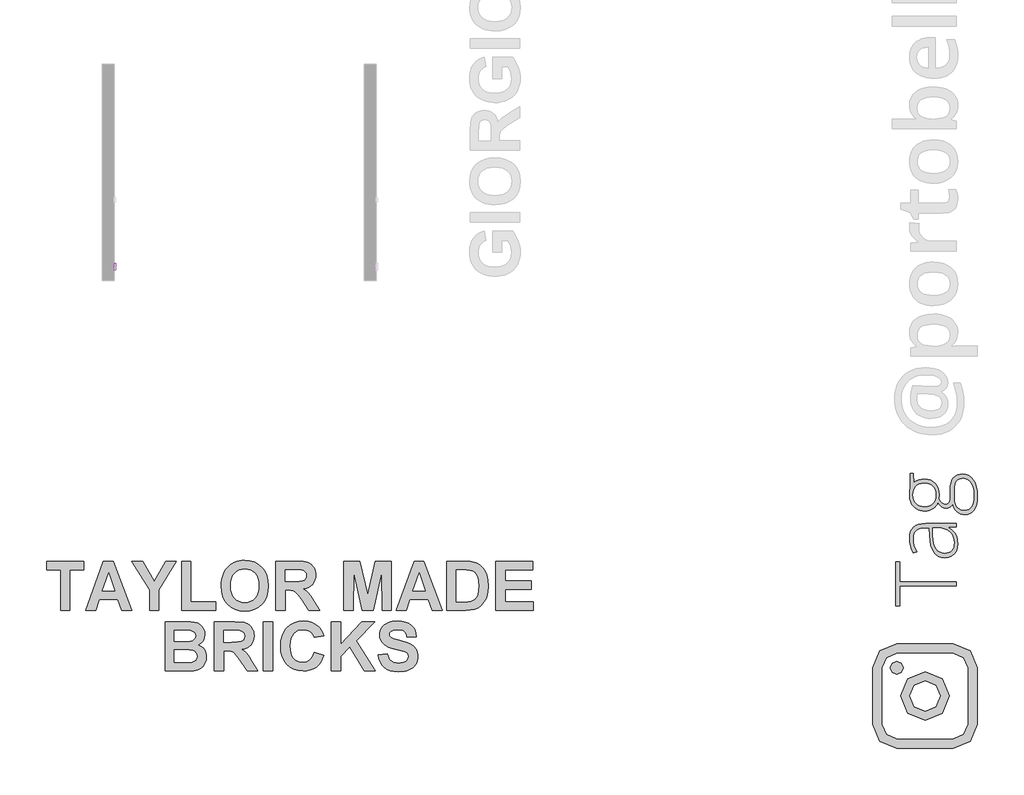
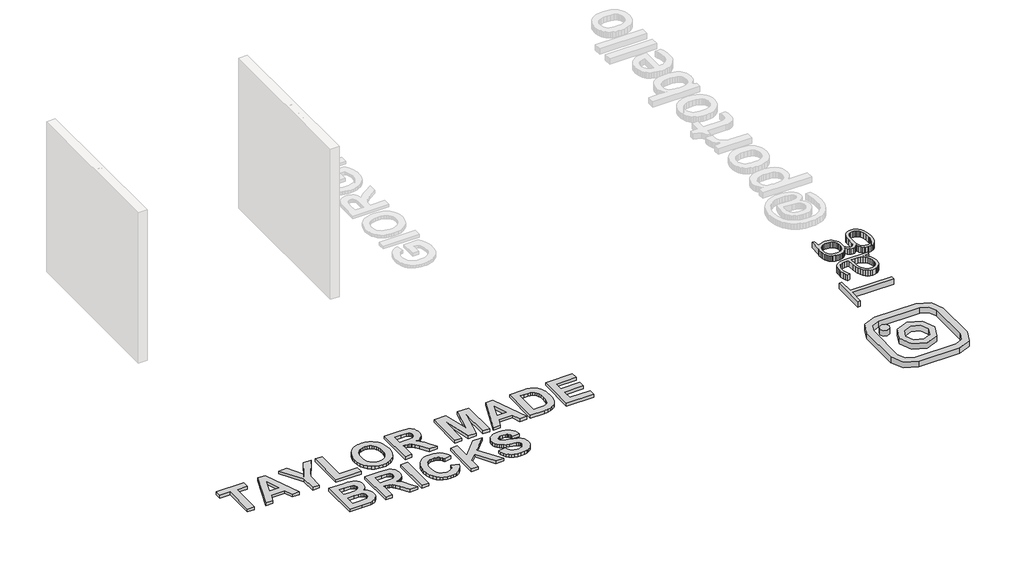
# One storey, part 2 of 6: 4 proxies.
"""IFC4 building model written with IfcOpenShell, lengths in millimetres."""

from ifc_helpers import new_model, si_unit, frame, origin, origin_with_axes, place, context, project, spatial, polyline, outline, extrude, transform, mapped, element, save
from components import generic_models_d67f6705

model = new_model("IFC4")

# Units and contexts
model_context = context("Model", 3, world=origin())
ifc_project = project(units=[si_unit("LENGTHUNIT", "METRE", prefix="MILLI")], contexts=[model_context])

# Site, building, storey
site = spatial("IfcSite", under=ifc_project)
building = spatial("IfcBuilding", under=site)
storey = spatial("IfcBuildingStorey", under=building, Name="PORTOBELLO - SHOWROOM", Elevation=0.0)

# Proxies
placement = place(None, origin())
generic_models_shape = generic_models_d67f6705(model_context)
element("IfcBuildingElementProxy", 1, Name="Blks_Instagram1 : Único 2", ObjectType="Blks_Instagram1 : Único 2", at=placement, inside=storey, context=model_context, shape_type="MappedRepresentation", body=[
    mapped(generic_models_shape, transform((-3106.922966, -13501.2406298, 0.0), x_axis=(-1.0, 0.0, 0.0), y_axis=(0.0, -1.0, 0.0), z_axis=(0.0, 0.0, 1.0))),
])
element("IfcBuildingElementProxy", 2, Name="10mm Arial", ObjectType="10mm Arial", at=placement, inside=storey, context=model_context, shape_type="SweptSolid", body=[
    extrude(outline(polyline([(-8147.5640107, 2596.6485127), (-8147.5640107, 2609.2055514), (-8106.7536347, 2609.2055514), (-8106.7536347, 2571.6570625), (-8126.9013053, 2559.8112622), (-8148.2016728, 2555.8381367), (-8162.2884876, 2557.4169636), (-8175.0202703, 2562.1534443), (-8185.5968776, 2569.8820318), (-8193.2181663, 2580.4371794), (-8197.8258883, 2593.0984514), (-8199.3617956, 2607.1454123), (-8197.8320197, 2621.2935407), (-8193.2426918, 2634.454519), (-8185.7838843, 2645.4940446), (-8175.6456697, 2653.2778145), (-8163.2970974, 2657.8947335), (-8149.2072169, 2659.4337065), (-8129.5623184, 2655.8652512), (-8115.791269, 2645.9324373), (-8108.2006372, 2629.3164338), (-8119.7766573, 2626.0545468), (-8125.5033537, 2637.6673551), (-8135.2890148, 2644.3628074), (-8149.4034207, 2646.8766677), (-8165.4798639, 2644.1666037), (-8176.4182218, 2637.0542185), (-8182.8806822, 2627.378922), (-8186.8047568, 2607.6604471), (-8182.0836046, 2585.7714684), (-8168.3493434, 2572.6748693), (-8149.2072169, 2568.3951754), (-8132.0271278, 2571.6202743), (-8119.3106735, 2578.4996676), (-8119.3106735, 2596.6485127), (-8147.5640107, 2596.6485127)])), frame((-13204.6123775, 0.0, 0.0), z_axis=(1.0, 0.0, 0.0), x_axis=(0.0, 1.0, 0.0)), (0.0, 0.0, 1.0), 20.0),
    extrude(outline(polyline([(-13184.6123775, -8075.3610378), (-13184.6123775, -8087.9180765), (-13204.6123775, -8087.9180765), (-13204.6123775, -8075.3610378), (-13184.6123775, -8075.3610378)])), frame((0.0, 0.0, 2645.3070379), z_axis=(0.0, 0.0, 1.0), x_axis=(1.0, 0.0, 0.0)), (0.0, 0.0, 1.0), 12.5570388),
    extrude(outline(polyline([(-13184.6123775, -8075.3610378), (-13184.6123775, -8087.9180765), (-13204.6123775, -8087.9180765), (-13204.6123775, -8075.3610378), (-13184.6123775, -8075.3610378)])), frame((0.0, 0.0, 2557.4077665), z_axis=(0.0, 0.0, 1.0), x_axis=(1.0, 0.0, 0.0)), (0.0, 0.0, 1.0), 73.7726028),
    extrude(outline(polyline([(-8059.6647393, 2594.2940679), (-8056.9485439, 2612.0811624), (-8048.7999577, 2624.5830188), (-8038.7322538, 2630.7082541), (-8026.6779871, 2632.7499991), (-8013.4863519, 2630.26373), (-8002.9495984, 2622.8049225), (-7996.0426139, 2610.962188), (-7993.7402858, 2595.3241375), (-7997.8115132, 2572.9814377), (-8009.6695762, 2560.3385598), (-8026.6779871, 2555.8381367), (-8040.0290378, 2558.3152088), (-8050.5535286, 2565.7464251), (-8057.3869366, 2577.83748), (-8059.6647393, 2594.2940679)]), holes=[polyline([(-8047.1077005, 2594.3185934), (-8045.6545667, 2582.9541054), (-8041.295165, 2574.8576358), (-8034.7346028, 2570.0107905), (-8026.6779871, 2568.3951754), (-8018.6581596, 2570.0199876), (-8012.1098601, 2574.894424), (-8007.7504584, 2583.0981925), (-8006.2973245, 2594.7110008), (-8007.7596555, 2605.744395), (-8012.1466483, 2613.7305), (-8018.7041448, 2618.5773453), (-8026.6779871, 2620.1929604), (-8034.7346028, 2618.5834766), (-8041.295165, 2613.7550255), (-8045.6545667, 2605.67695), (-8047.1077005, 2594.3185934)])]), frame((-13204.6123775, 0.0, 0.0), z_axis=(1.0, 0.0, 0.0), x_axis=(0.0, 1.0, 0.0)), (0.0, 0.0, 1.0), 20.0),
    extrude(outline(polyline([(-7979.6136172, 2557.4077665), (-7979.6136172, 2631.1803693), (-7968.6262082, 2631.1803693), (-7968.6262082, 2620.2665368), (-7960.8271099, 2630.321978), (-7952.9789607, 2632.7499991), (-7940.372871, 2628.8749755), (-7944.5667258, 2617.6177864), (-7953.3958936, 2620.1929604), (-7960.4960161, 2617.7158883), (-7965.0209647, 2610.8487577), (-7967.0565784, 2596.1825288), (-7967.0565784, 2557.4077665), (-7979.6136172, 2557.4077665)])), frame((-13204.6123775, 0.0, 0.0), z_axis=(1.0, 0.0, 0.0), x_axis=(0.0, 1.0, 0.0)), (0.0, 0.0, 1.0), 20.0),
    extrude(outline(polyline([(-7935.6639815, 2551.1292471), (-7923.1069427, 2549.5596173), (-7919.0357153, 2542.9377414), (-7906.8465585, 2540.1418382), (-7893.9952142, 2543.3056234), (-7887.8638476, 2552.1838422), (-7887.0054562, 2566.8255456), (-7895.8468869, 2559.7622113), (-7906.6258293, 2557.4077665), (-7919.5722099, 2560.1484874), (-7929.2260466, 2568.37065), (-7935.2317201, 2580.4249167), (-7937.2336113, 2594.6619499), (-7933.6406305, 2614.1229074), (-7923.2418328, 2627.8939568), (-7907.238966, 2632.7499991), (-7896.0369592, 2630.0031469), (-7887.0054562, 2621.7625902), (-7887.0054562, 2631.1803693), (-7874.4484175, 2631.1803693), (-7874.4484175, 2567.4877332), (-7877.8819828, 2543.0971569), (-7888.7590271, 2531.7541287), (-7907.0918132, 2527.5847994), (-7918.7751322, 2529.0532617), (-7927.9752478, 2533.4586486), (-7933.8766881, 2540.8132229), (-7935.6639815, 2551.1292471)]), holes=[polyline([(-7924.6765726, 2595.5203412), (-7923.336869, 2584.0025691), (-7919.3177582, 2576.0839091), (-7913.2752964, 2571.4945813), (-7905.8655399, 2569.9648053), (-7898.5109656, 2571.4853842), (-7892.437847, 2576.0471209), (-7888.3635539, 2583.8646133), (-7887.0054562, 2595.1524592), (-7888.4034078, 2606.0387006), (-7892.5972626, 2613.8776528), (-7898.759286, 2618.6141335), (-7906.0617436, 2620.1929604), (-7913.2323768, 2618.6386589), (-7919.2441818, 2613.9757546), (-7923.3184749, 2606.2532984), (-7924.6765726, 2595.5203412)])]), frame((-13204.6123775, 0.0, 0.0), z_axis=(1.0, 0.0, 0.0), x_axis=(0.0, 1.0, 0.0)), (0.0, 0.0, 1.0), 20.0),
    extrude(outline(polyline([(-13184.6123775, -7843.0558206), (-13184.6123775, -7855.6128593), (-13204.6123775, -7855.6128593), (-13204.6123775, -7843.0558206), (-13184.6123775, -7843.0558206)])), frame((0.0, 0.0, 2645.3070379), z_axis=(0.0, 0.0, 1.0), x_axis=(1.0, 0.0, 0.0)), (0.0, 0.0, 1.0), 12.5570388),
    extrude(outline(polyline([(-13184.6123775, -7843.0558206), (-13184.6123775, -7855.6128593), (-13204.6123775, -7855.6128593), (-13204.6123775, -7843.0558206), (-13184.6123775, -7843.0558206)])), frame((0.0, 0.0, 2557.4077665), z_axis=(0.0, 0.0, 1.0), x_axis=(1.0, 0.0, 0.0)), (0.0, 0.0, 1.0), 73.7726028),
    extrude(outline(polyline([(-7827.3595221, 2594.2940679), (-7824.6433267, 2612.0811624), (-7816.4947405, 2624.5830188), (-7806.4270366, 2630.7082541), (-7794.3727699, 2632.7499991), (-7781.1811346, 2630.26373), (-7770.6443812, 2622.8049225), (-7763.7373967, 2610.962188), (-7761.4350686, 2595.3241375), (-7765.506296, 2572.9814377), (-7777.3643589, 2560.3385598), (-7794.3727699, 2555.8381367), (-7807.7238206, 2558.3152088), (-7818.2483113, 2565.7464251), (-7825.0817194, 2577.83748), (-7827.3595221, 2594.2940679)]), holes=[polyline([(-7814.8024833, 2594.3185934), (-7813.3493494, 2582.9541054), (-7808.9899478, 2574.8576358), (-7802.4293856, 2570.0107905), (-7794.3727699, 2568.3951754), (-7786.3529424, 2570.0199876), (-7779.8046428, 2574.894424), (-7775.4452412, 2583.0981925), (-7773.9921073, 2594.7110008), (-7775.4544383, 2605.744395), (-7779.841431, 2613.7305), (-7786.3989276, 2618.5773453), (-7794.3727699, 2620.1929604), (-7802.4293856, 2618.5834766), (-7808.9899478, 2613.7550255), (-7813.3493494, 2605.67695), (-7814.8024833, 2594.3185934)])]), frame((-13204.6123775, 0.0, 0.0), z_axis=(1.0, 0.0, 0.0), x_axis=(0.0, 1.0, 0.0)), (0.0, 0.0, 1.0), 20.0),
    extrude(outline(polyline([(-7706.4980239, 2557.4077665), (-7706.4980239, 2657.8640767), (-7668.16472, 2657.8640767), (-7649.3904756, 2654.908758), (-7638.3049648, 2645.8220727), (-7634.295051, 2632.9707283), (-7637.6673026, 2621.2352927), (-7647.8576339, 2612.3448111), (-7635.4845361, 2602.976083), (-7631.1557913, 2587.3533609), (-7634.11111, 2573.8520917), (-7641.4319617, 2564.2381089), (-7652.358057, 2559.1368119), (-7668.4590256, 2557.4077665), (-7706.4980239, 2557.4077665)]), holes=[polyline([(-7693.9409852, 2617.0537007), (-7671.0096741, 2617.0537007), (-7657.6187695, 2618.1328212), (-7649.5621538, 2622.7803971), (-7646.8520898, 2630.9596401), (-7649.3782128, 2639.1511459), (-7656.6132254, 2643.9949255), (-7672.7509823, 2645.3070379), (-7693.9409852, 2645.3070379), (-7693.9409852, 2617.0537007)]), polyline([(-7693.9409852, 2569.9648053), (-7668.1892455, 2569.9648053), (-7658.8695683, 2570.4553146), (-7650.9846309, 2573.1899041), (-7645.7607065, 2578.7694477), (-7643.7128301, 2587.2307336), (-7646.1163258, 2596.9918692), (-7653.9031614, 2602.8166675), (-7669.4155188, 2604.4966619), (-7693.9409852, 2604.4966619), (-7693.9409852, 2569.9648053)])]), frame((-13204.6123775, 0.0, 0.0), z_axis=(1.0, 0.0, 0.0), x_axis=(0.0, 1.0, 0.0)), (0.0, 0.0, 1.0), 20.0),
    extrude(outline(polyline([(-7615.4594929, 2557.4077665), (-7615.4594929, 2631.1803693), (-7604.4720839, 2631.1803693), (-7604.4720839, 2620.2665368), (-7596.6729857, 2630.321978), (-7588.8248364, 2632.7499991), (-7576.2187467, 2628.8749755), (-7580.4126015, 2617.6177864), (-7589.2417693, 2620.1929604), (-7596.3418919, 2617.7158883), (-7600.8668404, 2610.8487577), (-7602.9024541, 2596.1825288), (-7602.9024541, 2557.4077665), (-7615.4594929, 2557.4077665)])), frame((-13204.6123775, 0.0, 0.0), z_axis=(1.0, 0.0, 0.0), x_axis=(0.0, 1.0, 0.0)), (0.0, 0.0, 1.0), 20.0),
    extrude(outline(polyline([(-13184.6123775, -7555.8135587), (-13184.6123775, -7568.3705975), (-13204.6123775, -7568.3705975), (-13204.6123775, -7555.8135587), (-13184.6123775, -7555.8135587)])), frame((0.0, 0.0, 2645.3070379), z_axis=(0.0, 0.0, 1.0), x_axis=(1.0, 0.0, 0.0)), (0.0, 0.0, 1.0), 12.5570388),
    extrude(outline(polyline([(-13184.6123775, -7555.8135587), (-13184.6123775, -7568.3705975), (-13204.6123775, -7568.3705975), (-13204.6123775, -7555.8135587), (-13184.6123775, -7555.8135587)])), frame((0.0, 0.0, 2557.4077665), z_axis=(0.0, 0.0, 1.0), x_axis=(1.0, 0.0, 0.0)), (0.0, 0.0, 1.0), 73.7726028),
    extrude(outline(polyline([(-7489.8891052, 2584.0914739), (-7477.3320664, 2582.5218441), (-7480.8330767, 2571.3535598), (-7487.4120331, 2562.9137337), (-7496.4496674, 2557.6070359), (-7507.3267118, 2555.8381367), (-7520.6838939, 2558.3060117), (-7531.1286768, 2565.7096369), (-7537.8701144, 2577.7240497), (-7540.1172603, 2594.0242878), (-7536.2790248, 2614.8831969), (-7524.5803773, 2628.2863643), (-7507.49839, 2632.7499991), (-7496.8880601, 2631.2171575), (-7488.4053145, 2626.6186325), (-7482.3199331, 2619.199679), (-7478.9016963, 2609.2055514), (-7491.458735, 2607.6359216), (-7497.2835333, 2617.0414379), (-7507.4002882, 2620.1929604), (-7515.5151518, 2618.6417246), (-7521.9561524, 2613.9880174), (-7526.1592042, 2605.9804526), (-7527.5602215, 2594.3676443), (-7526.1898611, 2582.5984861), (-7522.0787798, 2574.5633302), (-7515.7542751, 2569.9372141), (-7507.7436447, 2568.3951754), (-7495.9101072, 2572.2456737), (-7489.8891052, 2584.0914739)])), frame((-13204.6123775, 0.0, 0.0), z_axis=(1.0, 0.0, 0.0), x_axis=(0.0, 1.0, 0.0)), (0.0, 0.0, 1.0), 20.0),
    extrude(outline(polyline([(-7466.3446575, 2557.4077665), (-7466.3446575, 2657.8640767), (-7453.7876187, 2657.8640767), (-7453.7876187, 2603.8835252), (-7425.6323834, 2631.1803693), (-7408.2683532, 2631.1803693), (-7436.7669451, 2603.5401687), (-7406.6987233, 2557.4077665), (-7421.3649522, 2557.4077665), (-7445.7677912, 2594.8091027), (-7453.7876187, 2587.0345299), (-7453.7876187, 2557.4077665), (-7466.3446575, 2557.4077665)])), frame((-13204.6123775, 0.0, 0.0), z_axis=(1.0, 0.0, 0.0), x_axis=(0.0, 1.0, 0.0)), (0.0, 0.0, 1.0), 20.0),
])
element("IfcBuildingElementProxy", 3, Name="600mm Arial", ObjectType="600mm Arial", at=placement, inside=storey, context=model_context, shape_type="SweptSolid", body=[
    extrude(outline(polyline([(-13872.6884336, -12433.2321722), (-13872.6884336, -11927.9608503), (-14047.590045, -11927.9608503), (-14047.590045, -11821.0765322), (-13581.1857479, -11821.0765322), (-13581.1857479, -11927.9608503), (-13756.0873593, -11927.9608503), (-13756.0873593, -12433.2321722), (-13872.6884336, -12433.2321722)])), origin_with_axes(), (0.0, 0.0, 1.0), 50.0),
    extrude(outline(polyline([(-12988.4636203, -12433.2321722), (-13110.9858429, -12433.2321722), (-13158.9623265, -12297.1975855), (-13390.190759, -12297.1975855), (-13437.5599454, -12433.2321722), (-13561.7522355, -12433.2321722), (-13338.2668431, -11821.0765322), (-13214.0745531, -11821.0765322), (-12988.4636203, -12433.2321722)]), holes=[polyline([(-13196.3111082, -12190.3132674), (-13275.1079279, -11966.827875), (-13352.8419774, -12190.3132674), (-13196.3111082, -12190.3132674)])]), origin_with_axes(), (0.0, 0.0, 1.0), 50.0),
    extrude(outline(polyline([(-12764.9782279, -12433.2321722), (-12764.9782279, -12175.5863088), (-12983.6052422, -11821.0765322), (-12848.4816014, -11821.0765322), (-12706.9813394, -12072.6494229), (-12564.8737801, -11821.0765322), (-12429.7501393, -11821.0765322), (-12648.3771536, -12176.4972547), (-12648.3771536, -12433.2321722), (-12764.9782279, -12433.2321722)])), origin_with_axes(), (0.0, 0.0, 1.0), 50.0),
    extrude(outline(polyline([(-12366.5912241, -12433.2321722), (-12366.5912241, -11821.0765322), (-12249.9901498, -11821.0765322), (-12249.9901498, -12326.3478541), (-11939.0539517, -12326.3478541), (-11939.0539517, -12433.2321722), (-12366.5912241, -12433.2321722)])), origin_with_axes(), (0.0, 0.0, 1.0), 50.0),
    extrude(outline(polyline([(-11871.0366584, -12130.9499601), (-11869.3191458, -12086.1428089), (-11864.1666081, -12045.0933097), (-11855.5790453, -12007.8014622), (-11843.5564573, -11974.2672665), (-11819.321501, -11930.0294566), (-11787.6091971, -11890.5361565), (-11750.4691739, -11858.2165553), (-11709.9510597, -11835.4998421), (-11680.7818131, -11824.9385632), (-11649.44907, -11817.3947925), (-11615.9528304, -11812.8685301), (-11580.2930943, -11811.359776), (-11517.1911132, -11816.5929704), (-11460.7314459, -11832.2925535), (-11410.9140923, -11858.4585254), (-11367.7390526, -11895.090886), (-11349.0575451, -11917.0449192), (-11332.8669052, -11941.0414639), (-11307.9582284, -11995.1620879), (-11293.0130224, -12057.4527578), (-11288.031287, -12127.9134737), (-11292.9750663, -12197.8949942), (-11307.8064041, -12259.8108478), (-11332.5253005, -12313.6610347), (-11348.5925831, -12337.5615031), (-11367.1317554, -12359.4455548), (-11410.0221245, -12395.9782807), (-11459.5927635, -12422.073085), (-11515.8436724, -12437.7299675), (-11578.7748511, -12442.9489283), (-11642.3702613, -12437.75369), (-11699.0956211, -12422.1679752), (-11748.9509307, -12396.1917837), (-11791.9361901, -12359.8251156), (-11826.542645, -12314.3489886), (-11851.2615413, -12261.0444204), (-11866.0928791, -12199.9114108), (-11871.0366584, -12130.9499601)]), holes=[polyline([(-11754.4355841, -12126.6988792), (-11751.3374192, -12175.1213468), (-11742.0429244, -12217.3000395), (-11726.5520997, -12253.2349571), (-11704.8649451, -12282.9260998), (-11678.4048137, -12306.1741981), (-11648.5950582, -12322.7799826), (-11615.4356788, -12332.7434533), (-11578.9266755, -12336.0646102), (-11542.4556282, -12332.7671759), (-11509.410117, -12322.8748728), (-11479.790142, -12306.3877011), (-11453.595703, -12283.3056606), (-11432.174241, -12253.6287515), (-11416.8731967, -12217.3569736), (-11407.6925702, -12174.490327), (-11404.6323613, -12125.0288117), (-11407.6119135, -12076.2552504), (-11416.5505701, -12034.0860468), (-11431.448331, -11998.5212009), (-11452.3051964, -11969.5607127), (-11478.0963519, -11947.1096921), (-11507.7969837, -11931.0732487), (-11541.4070915, -11921.4513827), (-11578.9266755, -11918.2440941), (-11616.4842155, -11921.4893388), (-11650.2081916, -11931.225073), (-11680.0986037, -11947.4512968), (-11706.1554518, -11970.16801), (-11727.2780097, -11999.4226578), (-11742.3655511, -12035.2626852), (-11751.4180759, -12077.6880924), (-11754.4355841, -12126.6988792)])]), origin_with_axes(), (0.0, 0.0, 1.0), 50.0),
    extrude(outline(polyline([(-11190.8637251, -12433.2321722), (-11190.8637251, -11821.0765322), (-10933.3696861, -11821.0765322), (-10849.4867518, -11825.2137448), (-10817.5087553, -11830.3852605), (-10792.1730727, -11837.6253826), (-10771.2592732, -11847.5129411), (-10752.5469264, -11860.6267664), (-10736.036032, -11876.9668583), (-10721.7265903, -11896.533217), (-10710.1689643, -11918.4813196), (-10701.9135171, -11941.9666434), (-10696.9602489, -11966.9891884), (-10695.3091594, -11993.5489546), (-10697.6956479, -12026.6561443), (-10704.8551133, -12056.7458259), (-10716.7875555, -12083.8179991), (-10733.4929748, -12107.8726641), (-10754.9523929, -12128.3309906), (-10781.1468318, -12144.6141484), (-10812.0762915, -12156.7221376), (-10847.7407722, -12164.6549581), (-10813.9219059, -12189.0227607), (-10786.555573, -12215.6679281), (-10758.2403382, -12254.2692603), (-10721.574766, -12314.5055575), (-10646.7253785, -12433.2321722), (-10782.9117894, -12433.2321722), (-10871.5771897, -12293.4019776), (-10914.4106247, -12239.713104), (-10941.1886383, -12210.4299892), (-10960.5082825, -12196.0256573), (-10980.966609, -12186.9731325), (-11008.1241834, -12182.1906665), (-11047.5415713, -12180.5965112), (-11074.2626508, -12180.5965112), (-11074.2626508, -12433.2321722), (-11190.8637251, -12433.2321722)]), holes=[polyline([(-11074.2626508, -12073.7121931), (-10978.1578591, -12073.7121931), (-10902.3026355, -12071.9472355), (-10861.4808727, -12066.6523624), (-10840.7188976, -12057.0494745), (-10825.043037, -12042.360472), (-10815.1934345, -12022.9838937), (-10811.9102337, -11999.3182785), (-10816.2372267, -11973.1096061), (-10829.2182057, -11952.4804772), (-10850.094049, -11937.924321), (-10878.1056352, -11929.9345664), (-10972.8440081, -11927.9608503), (-11074.2626508, -11927.9608503), (-11074.2626508, -12073.7121931)])]), origin_with_axes(), (0.0, 0.0, 1.0), 50.0),
    extrude(outline(polyline([(-10345.5059366, -12433.2321722), (-10345.5059366, -11821.0765322), (-10145.7051374, -11821.0765322), (-10049.1448728, -12238.5933997), (-9952.5846081, -11821.0765322), (-9752.783809, -11821.0765322), (-9752.783809, -12433.2321722), (-9869.3848833, -12433.2321722), (-9874.2432614, -11951.3417948), (-9980.8239308, -12433.2321722), (-10117.3139904, -12433.2321722), (-10224.0464842, -11951.3417948), (-10228.9048623, -12433.2321722), (-10345.5059366, -12433.2321722)])), origin_with_axes(), (0.0, 0.0, 1.0), 50.0),
    extrude(outline(polyline([(-9121.1946566, -12433.2321722), (-9243.7168792, -12433.2321722), (-9291.6933629, -12297.1975855), (-9522.9217954, -12297.1975855), (-9570.2909818, -12433.2321722), (-9694.4832718, -12433.2321722), (-9470.9978795, -11821.0765322), (-9346.8055894, -11821.0765322), (-9121.1946566, -12433.2321722)]), holes=[polyline([(-9329.0421445, -12190.3132674), (-9407.8389642, -11966.827875), (-9485.5730138, -12190.3132674), (-9329.0421445, -12190.3132674)])]), origin_with_axes(), (0.0, 0.0, 1.0), 50.0),
    extrude(outline(polyline([(-9062.8941195, -11821.0765322), (-8836.2204165, -11821.0765322), (-8768.6585961, -11823.9991502), (-8719.3156936, -11832.7670045), (-8693.2588454, -11842.2702577), (-8669.1377573, -11854.8384643), (-8646.9524292, -11870.4716243), (-8626.7028611, -11889.1697377), (-8608.574089, -11910.5390101), (-8592.7511486, -11934.1856472), (-8568.0227632, -11988.3110157), (-8559.2216974, -12019.3638327), (-8552.9352219, -12053.8421858), (-8547.9060414, -12133.0755005), (-8552.6125952, -12203.3701585), (-8566.7322565, -12263.3407631), (-8579.5044771, -12295.1479572), (-8594.7438427, -12323.7668407), (-8612.4503535, -12349.1974135), (-8632.6240094, -12371.4396758), (-8670.5041762, -12399.2994376), (-8719.7711665, -12420.3271053), (-8767.7096941, -12430.0059054), (-8829.5401466, -12433.2321722), (-9062.8941195, -12433.2321722), (-9062.8941195, -11821.0765322)]), holes=[polyline([(-8946.2930452, -11927.9608503), (-8946.2930452, -12326.3478541), (-8846.9999429, -12326.3478541), (-8799.0234592, -12324.9055231), (-8766.5330557, -12320.5785301), (-8736.9462922, -12310.6909715), (-8712.8631602, -12295.6034302), (-8693.4865819, -12272.2414636), (-8678.0194798, -12237.5306295), (-8667.8852067, -12189.7818823), (-8664.5071157, -12127.3061765), (-8667.8852067, -12065.7034605), (-8678.0194798, -12020.2700341), (-8694.2077474, -11987.020509), (-8715.7478222, -11961.9694969), (-8743.2470013, -11944.4337885), (-8777.3125821, -11933.7301743), (-8818.5708398, -11929.4031813), (-8886.4742649, -11927.9608503), (-8946.2930452, -11927.9608503)])]), origin_with_axes(), (0.0, 0.0, 1.0), 50.0),
    extrude(outline(polyline([(-8450.7384795, -12433.2321722), (-8450.7384795, -11821.0765322), (-7994.0509386, -11821.0765322), (-7994.0509386, -11927.9608503), (-8334.1374052, -11927.9608503), (-8334.1374052, -12063.9954369), (-8013.484451, -12063.9954369), (-8013.484451, -12170.879755), (-8334.1374052, -12170.879755), (-8334.1374052, -12326.3478541), (-7984.3341824, -12326.3478541), (-7984.3341824, -12433.2321722), (-8450.7384795, -12433.2321722)])), origin_with_axes(), (0.0, 0.0, 1.0), 50.0),
    extrude(outline(polyline([(-12570.6431041, -12576.5446312), (-12319.373862, -12576.5446312), (-12254.2981648, -12578.0628744), (-12208.1625509, -12582.6176038), (-12173.4327388, -12592.0117334), (-12142.5744466, -12608.0481767), (-12116.0621255, -12630.5940875), (-12094.3702265, -12659.5166196), (-12079.9089604, -12693.5822004), (-12075.0885384, -12731.5572573), (-12080.8388844, -12772.9293833), (-12098.0899222, -12810.80955), (-12125.2095406, -12842.4269637), (-12160.565628, -12865.0108306), (-12136.7481885, -12874.5567844), (-12115.8533671, -12886.9494442), (-12097.8811638, -12902.1888099), (-12082.8315785, -12920.2748814), (-12070.9418368, -12940.6478068), (-12062.4491641, -12962.7477337), (-12057.3535606, -12986.5746622), (-12055.655026, -13012.1285923), (-12060.5323822, -13053.1401355), (-12075.1644506, -13092.9750403), (-12098.2417465, -13128.2741936), (-12128.4547853, -13155.6784826), (-12166.1641497, -13174.637544), (-12211.7304223, -13184.6010147), (-12361.4291974, -13188.7002712), (-12570.6431041, -13188.7002712), (-12570.6431041, -12576.5446312)]), holes=[polyline([(-12454.0420298, -12683.4289493), (-12454.0420298, -12819.463536), (-12365.072981, -12819.463536), (-12266.3871759, -12817.4898199), (-12235.3201253, -12810.3920331), (-12211.6545102, -12796.38624), (-12196.6808371, -12776.15565), (-12191.6896127, -12750.3834724), (-12195.9976276, -12725.7309992), (-12208.9216725, -12706.1266845), (-12230.3099229, -12692.405562), (-12260.0105547, -12685.4026654), (-12376.0043317, -12683.4289493), (-12454.0420298, -12683.4289493)]), polyline([(-12454.0420298, -12926.3478541), (-12454.0420298, -13081.8159531), (-12330.7606857, -13081.8159531), (-12239.3624477, -13078.1721695), (-12212.3756757, -13070.0305906), (-12190.9304911, -13055.0189614), (-12176.924698, -13033.4409306), (-12172.2561003, -13005.6001467), (-12175.8619278, -12981.4600806), (-12186.6794103, -12961.2674466), (-12204.2910309, -12945.5156739), (-12228.2792727, -12934.6981914), (-12271.3973783, -12928.4354384), (-12346.3985902, -12926.3478541), (-12454.0420298, -12926.3478541)])]), origin_with_axes(), (0.0, 0.0, 1.0), 50.0),
    extrude(outline(polyline([(-11958.4874641, -13188.7002712), (-11958.4874641, -12576.5446312), (-11700.9934251, -12576.5446312), (-11617.1104908, -12580.6818438), (-11585.1324943, -12585.8533596), (-11559.7968117, -12593.0934816), (-11538.8830122, -12602.9810401), (-11520.1706654, -12616.0948654), (-11503.6597711, -12632.4349573), (-11489.3503293, -12652.001316), (-11477.7927033, -12673.9494186), (-11469.5372562, -12697.4347424), (-11464.5839879, -12722.4572874), (-11462.9328984, -12749.0170536), (-11465.3193869, -12782.1242434), (-11472.4788523, -12812.2139249), (-11484.4112946, -12839.2860982), (-11501.1167138, -12863.3407631), (-11522.5761319, -12883.7990896), (-11548.7705708, -12900.0822475), (-11579.7000306, -12912.1902366), (-11615.3645112, -12920.1230571), (-11581.5456449, -12944.4908598), (-11554.179312, -12971.1360271), (-11525.8640772, -13009.7373593), (-11489.198505, -13069.9736565), (-11414.3491175, -13188.7002712), (-11550.5355285, -13188.7002712), (-11639.2009287, -13048.8700766), (-11682.0343637, -12995.1812031), (-11708.8123773, -12965.8980882), (-11728.1320215, -12951.4937563), (-11748.590348, -12942.4412315), (-11775.7479224, -12937.6587656), (-11815.1653103, -12936.0646102), (-11841.8863898, -12936.0646102), (-11841.8863898, -13188.7002712), (-11958.4874641, -13188.7002712)]), holes=[polyline([(-11841.8863898, -12829.1802922), (-11745.7815982, -12829.1802922), (-11669.9263745, -12827.4153345), (-11629.1046117, -12822.1204615), (-11608.3426366, -12812.5175735), (-11592.666776, -12797.828571), (-11582.8171735, -12778.4519928), (-11579.5339727, -12754.7863776), (-11583.8609657, -12728.5777051), (-11596.8419447, -12707.9485763), (-11617.7177881, -12693.39242), (-11645.7293743, -12685.4026654), (-11740.4677471, -12683.4289493), (-11841.8863898, -12683.4289493), (-11841.8863898, -12829.1802922)])]), origin_with_axes(), (0.0, 0.0, 1.0), 50.0),
    extrude(outline(polyline([(-11346.3318242, -13188.7002712), (-11346.3318242, -12576.5446312), (-11229.7307499, -12576.5446312), (-11229.7307499, -13188.7002712), (-11346.3318242, -13188.7002712)])), origin_with_axes(), (0.0, 0.0, 1.0), 50.0),
    extrude(outline(polyline([(-10714.7426718, -12955.4981226), (-10598.1415975, -12994.3651474), (-10614.244464, -13040.4675497), (-10634.9210379, -13080.2407758), (-10660.1713194, -13113.6848258), (-10689.9953084, -13140.7996997), (-10724.2696476, -13161.7561997), (-10762.8709798, -13176.7251283), (-10805.799305, -13185.7064855), (-10853.0546232, -13188.7002712), (-10911.4405615, -13183.5856896), (-10964.3798025, -13168.2419447), (-11011.8723462, -13142.6690365), (-11053.9181926, -13106.8669652), (-11088.3253781, -13062.1926603), (-11112.9019391, -13010.0030519), (-11127.6478758, -12950.2981398), (-11132.563188, -12883.0779242), (-11127.6051752, -12812.1949469), (-11112.7311368, -12749.700263), (-11087.9410728, -12695.5938726), (-11071.8275311, -12671.6862874), (-11053.2349831, -12649.8757756), (-11010.4442487, -12613.5423191), (-10961.4002503, -12587.5898502), (-10906.1029879, -12572.0183688), (-10844.5524615, -12566.827875), (-10790.7307417, -12571.1074229), (-10742.2228729, -12583.9460666), (-10699.0288551, -12605.3438061), (-10661.1486884, -12635.3006413), (-10641.4399945, -12657.7042169), (-10624.369248, -12684.5296756), (-10609.936449, -12715.7770175), (-10598.1415975, -12751.4462426), (-10714.7426718, -12770.879755), (-10722.0919176, -12749.5247161), (-10732.6010069, -12730.5514212), (-10746.2699398, -12713.9598702), (-10763.0987163, -12699.7500632), (-10782.4990171, -12688.3584951), (-10803.882523, -12680.2216606), (-10827.2492341, -12675.33956), (-10852.5991502, -12673.7121931), (-10887.2483057, -12676.6680228), (-10918.4719251, -12685.5355117), (-10946.2700084, -12700.3146599), (-10970.6425555, -12721.0054674), (-10990.4698622, -12748.3101216), (-11004.6322242, -12782.9308101), (-11013.1296413, -12824.8675327), (-11015.9621137, -12874.1202895), (-11013.2150425, -12926.2529639), (-11004.9738289, -12970.3009934), (-10991.2384728, -13006.2643781), (-10972.0089744, -13034.143118), (-10948.3765708, -13054.9999834), (-10921.4324993, -13069.8977443), (-10891.1767599, -13078.8364009), (-10857.6093527, -13081.8159531), (-10832.6200192, -13079.9134046), (-10809.4241105, -13074.2057593), (-10788.0216266, -13064.693017), (-10768.4125673, -13051.3751778), (-10751.0239387, -13033.9675712), (-10736.2827466, -13012.1855264), (-10724.1889909, -12986.0290436), (-10714.7426718, -12955.4981226)])), origin_with_axes(), (0.0, 0.0, 1.0), 50.0),
    extrude(outline(polyline([(-10500.9740356, -13188.7002712), (-10500.9740356, -12576.5446312), (-10384.3729613, -12576.5446312), (-10384.3729613, -12855.5977231), (-10121.7168956, -12576.5446312), (-9961.6940671, -12576.5446312), (-10193.3779725, -12810.354077), (-9951.9773109, -13188.7002712), (-10088.3155462, -13188.7002712), (-10269.1383059, -12887.0253564), (-10384.3729613, -13003.4746063), (-10384.3729613, -13188.7002712), (-10500.9740356, -13188.7002712)])), origin_with_axes(), (0.0, 0.0, 1.0), 50.0),
    extrude(outline(polyline([(-9917.9686642, -12984.6483912), (-9801.3675899, -12974.931635), (-9794.3077593, -13003.0001553), (-9784.3632666, -13027.0832874), (-9771.5341119, -13047.1810311), (-9755.8202953, -13063.2933866), (-9737.1743715, -13075.6480903), (-9715.5488956, -13084.4728786), (-9690.9438675, -13089.7677516), (-9663.3592872, -13091.5327093), (-9634.3703319, -13089.9717655), (-9609.1959626, -13085.2889343), (-9587.8361792, -13077.4842156), (-9570.2909818, -13066.5576094), (-9556.6078154, -13053.5434189), (-9546.834125, -13039.4759471), (-9540.9699109, -13024.3551942), (-9539.0151728, -13008.1811601), (-9542.2604175, -12988.3491089), (-9551.9961518, -12971.6674122), (-9569.8544869, -12957.5667289), (-9597.4675343, -12945.4777178), (-9698.5825284, -12919.5157599), (-9745.5152199, -12906.8479185), (-9784.8946517, -12892.6808121), (-9816.7208238, -12877.0144406), (-9840.9937363, -12859.8488039), (-9866.1681056, -12833.2700597), (-9884.1497979, -12803.9394997), (-9894.9388134, -12771.857124), (-9898.5351518, -12737.0229327), (-9896.8840624, -12714.097461), (-9891.9307941, -12691.931111), (-9883.675347, -12670.5238825), (-9872.1177209, -12649.8757756), (-9857.4476965, -12630.812335), (-9839.8550539, -12614.1591054), (-9819.3397933, -12599.9160868), (-9795.9019146, -12588.0832792), (-9769.7217092, -12578.7840399), (-9740.9794685, -12572.1417261), (-9675.808881, -12566.827875), (-9621.8970155, -12570.1395429), (-9575.0924258, -12580.0745466), (-9535.3951118, -12596.632886), (-9502.8050736, -12619.8145611), (-9477.2179319, -12648.5188458), (-9458.5293076, -12681.6450136), (-9446.7392006, -12719.1930646), (-9441.8476109, -12761.1629988), (-9558.4486852, -12761.1629988), (-9563.7198356, -12739.4948223), (-9571.334774, -12721.1003576), (-9581.2935002, -12705.9796047), (-9593.5960142, -12694.1325635), (-9608.7547232, -12685.1986515), (-9627.2820342, -12678.8172857), (-9674.4424622, -12673.7121931), (-9724.0890134, -12679.1399124), (-9744.3575595, -12685.9245615), (-9761.5896193, -12695.4230702), (-9776.847963, -12711.7441841), (-9781.9340776, -12732.7718518), (-9777.3034359, -12752.6228811), (-9763.4115111, -12769.3615119), (-9747.4462354, -12779.0830126), (-9723.0831773, -12788.9658266), (-9649.1637137, -12809.2153947), (-9570.2720037, -12830.2810184), (-9515.026931, -12852.3335003), (-9476.3117305, -12879.0356018), (-9447.0096376, -12914.0500845), (-9436.2490893, -12934.7835926), (-9428.5629833, -12957.8134434), (-9423.9513197, -12983.1396371), (-9422.4140985, -13010.7621735), (-9424.2312458, -13036.4584389), (-9429.6826876, -13061.3196705), (-9438.768424, -13085.3458684), (-9451.4884549, -13108.5370326), (-9467.5343873, -13129.8493709), (-9486.5978279, -13148.2390911), (-9508.6787768, -13163.7061933), (-9533.7772339, -13176.2506773), (-9562.0213011, -13185.9484555), (-9593.5390801, -13192.8754399), (-9666.3957735, -13198.4170274), (-9720.8817247, -13195.0057248), (-9768.64945, -13184.771817), (-9809.6989492, -13167.7153041), (-9844.0302226, -13143.836186), (-9871.8804955, -13113.4191333), (-9893.4869933, -13076.7488166), (-9908.8497163, -13033.8252359), (-9917.9686642, -12984.6483912)])), origin_with_axes(), (0.0, 0.0, 1.0), 50.0),
])
element("IfcBuildingElementProxy", 4, Name="80mm OpenSans Light", ObjectType="80mm OpenSans Light", at=placement, inside=storey, context=model_context, shape_type="SweptSolid", body=[
    extrude(outline(polyline([(-2715.2099813, -12075.6088843), (-2715.2099813, -12129.4509987), (-3420.9262655, -12129.4509987), (-3420.9262655, -12375.1056453), (-3468.9995819, -12375.1056453), (-3468.9995819, -11829.9542377), (-3420.9262655, -11829.9542377), (-3420.9262655, -12075.6088843), (-2715.2099813, -12075.6088843)])), origin_with_axes(), (0.0, 0.0, 1.0), 100.0),
    extrude(outline(polyline([(-3299.7815083, -11536.2262747), (-3296.8069719, -11492.8551296), (-3287.8833625, -11455.2828283), (-3273.0106803, -11423.5093708), (-3252.1889251, -11397.534757), (-3224.8622493, -11377.3439641), (-3190.4748052, -11362.9219692), (-3149.0265928, -11354.2687723), (-3100.517612, -11351.3843733), (-2715.2099813, -11351.3843733), (-2715.2099813, -11391.765959), (-2808.7125816, -11401.1402557), (-2808.7125816, -11404.2650213), (-2778.7568964, -11424.2755392), (-2752.3466182, -11448.2521058), (-2730.3831218, -11477.0960956), (-2713.7677818, -11511.7088834), (-2703.3118355, -11553.3523937), (-2699.8265201, -11603.288551), (-2704.57376, -11653.6753958), (-2718.81548, -11696.1902349), (-2742.1610843, -11730.3823812), (-2774.2199771, -11755.8011472), (-2814.5114254, -11771.5752042), (-2862.554696, -11776.8332231), (-2903.9127709, -11772.4916017), (-2940.0128269, -11759.4667376), (-2970.854864, -11737.7586307), (-2996.438882, -11707.367281), (-3016.8850644, -11668.8485362), (-3032.3135944, -11622.7582442), (-3042.7244719, -11569.0964048), (-3048.1176971, -11507.8630181), (-3053.6461285, -11403.0631884), (-3094.748814, -11403.0631884), (-3134.9125675, -11405.2039533), (-3168.8718587, -11411.6262479), (-3196.6266874, -11422.3300722), (-3218.1770538, -11437.3154263), (-3234.319172, -11456.4771497), (-3245.8492565, -11479.7100822), (-3252.7673072, -11507.0142236), (-3255.0733241, -11538.389574), (-3252.3091084, -11581.0546422), (-3244.0164613, -11622.0371444), (-3230.4958411, -11662.5389135), (-3212.0477059, -11703.7617823), (-3255.5540572, -11720.3470764), (-3273.1008177, -11678.4631995), (-3287.282446, -11633.5747404), (-3296.6567427, -11586.0422488), (-3299.7815083, -11536.2262747)]), holes=[polyline([(-3012.543443, -11403.5439215), (-3008.2168445, -11502.0942201), (-3003.5897878, -11552.5937366), (-2995.2370491, -11596.6484242), (-2983.1586284, -11634.2582828), (-2967.3545256, -11665.4233125), (-2947.4942368, -11689.8731007), (-2923.2472579, -11707.3372352), (-2894.6135888, -11717.8157158), (-2861.5932296, -11721.3085427), (-2834.8824932, -11719.220358), (-2811.4767973, -11712.955804), (-2791.3761419, -11702.5148806), (-2774.580527, -11687.8975879), (-2761.3303192, -11669.5546131), (-2751.865885, -11647.9366436), (-2746.1872245, -11623.0436795), (-2744.2943377, -11594.8757207), (-2747.8021875, -11551.2266517), (-2758.3257369, -11513.0609454), (-2775.8649859, -11480.3786017), (-2800.4199346, -11453.1796207), (-2831.0441394, -11431.7344147), (-2866.791157, -11416.3133962), (-2907.6609873, -11406.9165651), (-2953.6536305, -11403.5439215), (-3012.543443, -11403.5439215)])]), origin_with_axes(), (0.0, 0.0, 1.0), 100.0),
    extrude(outline(polyline([(-2453.6911403, -11014.8711587), (-2456.2976154, -11065.0251483), (-2464.1170407, -11109.2450879), (-2477.1494164, -11147.5309775), (-2495.3947422, -11179.8828172), (-2518.3121935, -11205.59453), (-2545.3609454, -11223.9600391), (-2576.5409979, -11234.9793446), (-2611.8523511, -11238.6524464), (-2639.8175006, -11236.4215441), (-2665.7846029, -11229.7288371), (-2689.753658, -11218.5743254), (-2711.7246659, -11202.958009), (-2730.600954, -11183.5108502), (-2745.2858498, -11160.8638114), (-2755.7793534, -11135.0168924), (-2762.0814648, -11105.9700932), (-2776.0227265, -11128.1739562), (-2794.2905867, -11145.7507625), (-2816.3442206, -11157.198221), (-2841.6428033, -11161.0140405), (-2870.8773889, -11156.4771212), (-2898.0087668, -11142.8663636), (-2923.0970288, -11120.1817674), (-2946.2022664, -11088.4233328), (-2956.6657242, -11111.521059), (-2970.2689704, -11132.0198215), (-2987.0120052, -11149.9196204), (-3006.8948283, -11165.2204557), (-3029.4367068, -11177.4716399), (-3054.1569075, -11186.2224858), (-3081.0554303, -11191.4729933), (-3110.1322752, -11193.2231624), (-3138.0298216, -11191.6983369), (-3164.0344812, -11187.1238604), (-3188.146254, -11179.4997329), (-3210.3651399, -11168.8259544), (-3230.4432609, -11155.3504029), (-3248.132739, -11139.3209565), (-3263.4335743, -11120.7376151), (-3276.3457666, -11099.6003788), (-3286.5989036, -11076.1571256), (-3293.9225729, -11050.6557336), (-3299.7815083, -10993.4785329), (-3298.6998587, -10959.7070282), (-3295.3347265, -10931.4639548), (-3289.4457453, -10908.1483964), (-3289.4457453, -10726.1908939), (-3251.9485585, -10726.1908939), (-3244.2568279, -10842.287953), (-3215.262609, -10822.3074809), (-3184.0449992, -10808.0357151), (-3150.844365, -10799.4726556), (-3115.9010732, -10796.6183024), (-3075.4443729, -10799.9233429), (-3039.4044085, -10809.8384644), (-3007.7811801, -10826.3636669), (-2980.5746876, -10849.4989504), (-2958.7013287, -10878.5232152), (-2943.0775009, -10912.7153615), (-2933.7032042, -10952.0753892), (-2930.5784386, -10996.6032985), (-2935.1454037, -11047.5610139), (-2915.5555272, -11075.3233541), (-2895.7252842, -11095.6343302), (-2873.4312838, -11108.0733008), (-2846.450135, -11112.2196244), (-2829.6545201, -11109.6356836), (-2816.284129, -11101.8838614), (-2805.9784118, -11089.2045242), (-2798.3768186, -11071.8380386), (-2793.6896703, -11049.9646797), (-2792.1272875, -11023.7647223), (-2792.1272875, -10924.7336905), (-2789.7611789, -10881.520286), (-2782.6628533, -10843.7001066), (-2770.8323106, -10811.2731525), (-2754.2695508, -10784.2394235), (-2733.0947573, -10762.9444466), (-2707.4281132, -10747.7337488), (-2677.2696186, -10738.6073302), (-2642.6192736, -10735.5651906), (-2600.1945719, -10740.1171328), (-2562.8175684, -10753.7729592), (-2530.4882632, -10776.5326699), (-2503.2066561, -10808.3962649), (-2481.5436179, -10848.6125987), (-2466.0700192, -10896.4305255), (-2456.78586, -10951.8500456), (-2453.6911403, -11014.8711587)]), holes=[polyline([(-2497.6782247, -11011.26566), (-2501.7945025, -10943.2118715), (-2514.1433356, -10887.5970536), (-2534.4843576, -10844.3310689), (-2547.5618019, -10827.2950874), (-2562.5772018, -10813.3237799), (-2579.5080229, -10802.4396806), (-2598.3317309, -10794.6653239), (-2619.0483256, -10790.00071), (-2641.6578073, -10788.4458386), (-2676.0001826, -10792.9827579), (-2701.6292694, -10806.5935156), (-2719.6267172, -10828.4969203), (-2731.0741757, -10857.9117808), (-2737.2035235, -10894.0268597), (-2739.2466395, -10936.0309199), (-2739.2466395, -11030.4949865), (-2736.1218739, -11073.0098257), (-2726.7475772, -11110.6572416), (-2710.6430162, -11141.934943), (-2687.3274578, -11165.340639), (-2655.8394356, -11179.9429088), (-2615.2174833, -11184.8103321), (-2588.1086397, -11182.0386049), (-2564.4700887, -11173.7234235), (-2544.3018302, -11159.8647878), (-2527.6038642, -11140.4626977), (-2514.5113969, -11115.75752), (-2505.1596346, -11085.9896211), (-2499.5485772, -11051.1590011), (-2497.6782247, -11011.26566)]), polyline([(-2972.6425904, -10994.6803659), (-2974.8810042, -10961.7426327), (-2981.5962456, -10932.8761085), (-2992.7883146, -10908.0807933), (-3008.4572111, -10887.3566871), (-3028.3775916, -10871.004248), (-3052.3241123, -10859.3239345), (-3080.2967733, -10852.3157463), (-3112.2955745, -10849.9796836), (-3146.3299802, -10852.375838), (-3175.8424895, -10859.564301), (-3200.8331026, -10871.5450729), (-3221.3018193, -10888.3181534), (-3237.2336168, -10909.4028095), (-3248.6134722, -10934.318308), (-3255.4413854, -10963.0646489), (-3257.7173565, -10995.6418322), (-3255.2986678, -11027.2575491), (-3248.0426016, -11055.2827903), (-3235.9491579, -11079.7175556), (-3219.0183368, -11100.5618452), (-3197.7008256, -11117.2297653), (-3172.4473116, -11129.1354226), (-3143.2577948, -11136.2788169), (-3110.1322752, -11138.6599484), (-3079.2752153, -11136.3914888), (-3052.0837457, -11129.5861099), (-3028.5578665, -11118.2438118), (-3008.6975777, -11102.3645945), (-2992.9235208, -11082.0235725), (-2981.6563373, -11057.2958604), (-2974.8960271, -11028.1814582), (-2972.6425904, -10994.6803659)])]), origin_with_axes(), (0.0, 0.0, 1.0), 100.0),
])

save(model, "model.ifc")
